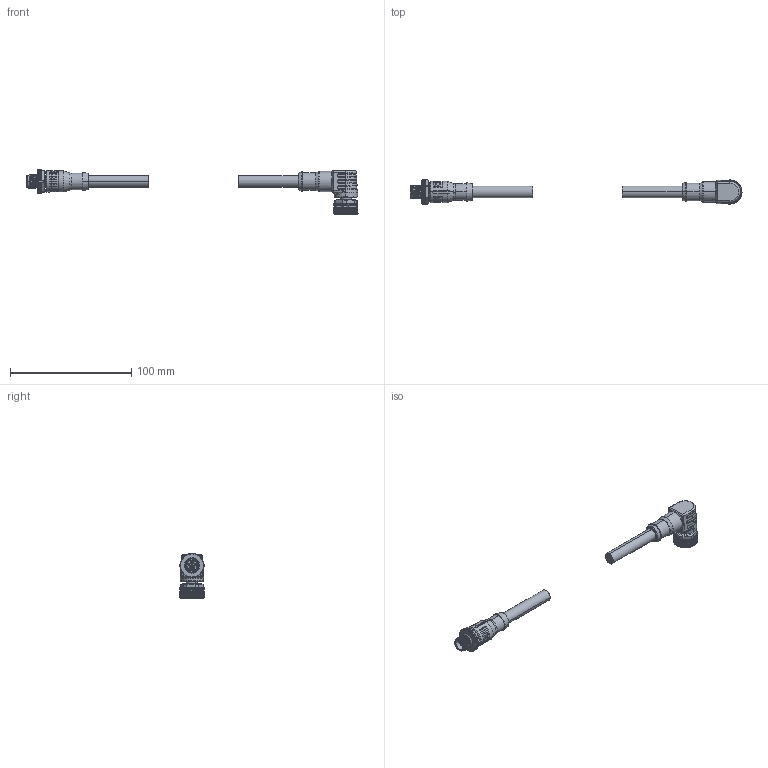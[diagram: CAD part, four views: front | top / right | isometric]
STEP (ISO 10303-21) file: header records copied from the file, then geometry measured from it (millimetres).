
FILE_DESCRIPTION (( 'STEP AP203' ), '1' );
FILE_NAME ('64LD41-XXX.STEP', '2024-12-09T06:02:47', ( 'L' ), ( '' ), 'SwSTEP 2.0', 'SolidWorks 2019', '' );
FILE_SCHEMA (( 'CONFIG_CONTROL_DESIGN' ));
Length unit declared in the file: millimetre
Products named in the file (1): 64LD41-XXX
Bounding box: 274.06 x 20 x 37.34 mm (x, y, z)
Volume: 31539.5 mm3; surface area: 14522.7 mm2
Topology: 2 solids, 9 shells, 1040 faces, 2800 edges, 1798 vertices
Faces by surface type: plane 462, cylinder 276, cone 151, bspline 100, torus 41, sphere 10
Entity records: 54213 total; most frequent: CARTESIAN_POINT 29858, ORIENTED_EDGE 5536, DIRECTION 4410, EDGE_CURVE 2768, VERTEX_POINT 1788, AXIS2_PLACEMENT_3D 1663, EDGE_LOOP 1100, VECTOR 1084
